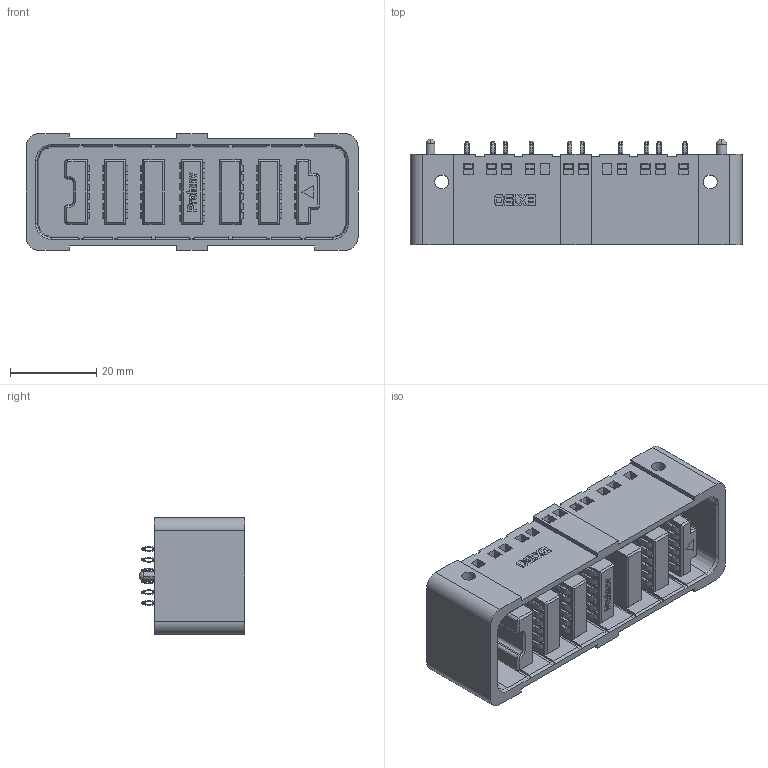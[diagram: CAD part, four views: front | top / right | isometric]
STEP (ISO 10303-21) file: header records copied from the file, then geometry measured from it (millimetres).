
FILE_DESCRIPTION(/* description */ (''),/* implementation_level */ '2;1');
FILE_NAME(/* name */ 'PDC3410F0002-12S石头档.stp',/* time_stamp */ '2024-08-16T11:36:02+08:00',/* author */ (''),/* organization */ (''),/* preprocessor_version */ 'ST-DEVELOPER v16.7',/* originating_system */ 'SIEMENS PLM Software NX 1946',/* authorisation */ '');
FILE_SCHEMA (('AUTOMOTIVE_DESIGN { 1 0 10303 214 3 1 1 1 }'));
Products named in the file (1): _model1
Bounding box: 76.9 x 24.5 x 27 mm (x, y, z)
Volume: 26550.2 mm3; surface area: 21537.8 mm2
Topology: 1 solids, 21 shells, 4164 faces, 11252 edges, 7107 vertices
Faces by surface type: plane 1800, cylinder 1328, torus 480, extrusion 268, bspline 240, cone 44, sphere 4
Entity records: 148146 total; most frequent: CARTESIAN_POINT 44892, ORIENTED_EDGE 22496, DIRECTION 20352, EDGE_CURVE 11248, VERTEX_POINT 7107, AXIS2_PLACEMENT_3D 6878, VECTOR 6596, LINE 6328
